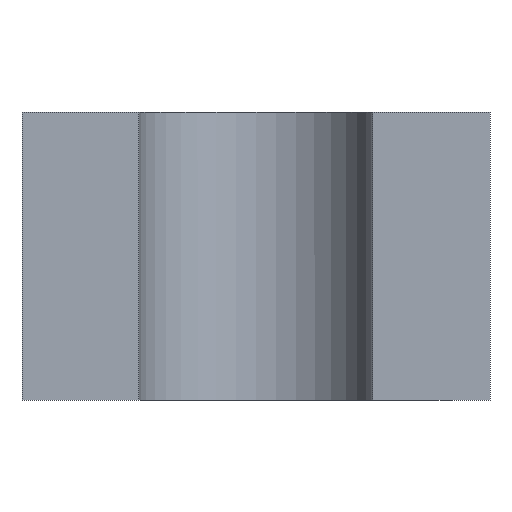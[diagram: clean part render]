
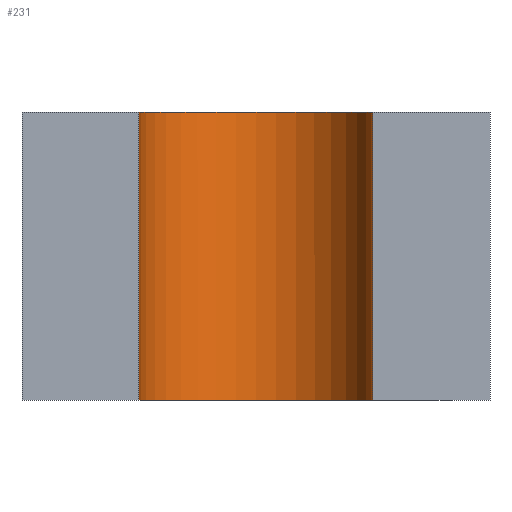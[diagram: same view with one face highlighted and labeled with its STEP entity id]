
A CAD part, front view. The second image highlights one B-rep face of the part: STEP entity #231.
In plain terms, the highlighted cylindrical face has radius 3.25 mm (diameter 6.5 mm), a partial arc.
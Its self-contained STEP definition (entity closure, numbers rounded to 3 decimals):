
#29=LINE('',#383,#53);
#30=LINE('',#389,#54);
#53=VECTOR('',#317,10.);
#54=VECTOR('',#324,10.);
#65=CYLINDRICAL_SURFACE('',#271,3.25);
#76=FACE_OUTER_BOUND('',#90,.T.);
#90=EDGE_LOOP('',(#180,#181,#182,#183));
#102=CIRCLE('',#272,3.25);
#103=CIRCLE('',#273,3.25);
#116=VERTEX_POINT('',#379);
#117=VERTEX_POINT('',#381);
#118=VERTEX_POINT('',#385);
#119=VERTEX_POINT('',#387);
#142=EDGE_CURVE('',#116,#117,#29,.T.);
#143=EDGE_CURVE('',#116,#118,#102,.T.);
#144=EDGE_CURVE('',#119,#117,#103,.T.);
#145=EDGE_CURVE('',#118,#119,#30,.T.);
#180=ORIENTED_EDGE('',*,*,#143,.F.);
#181=ORIENTED_EDGE('',*,*,#142,.T.);
#182=ORIENTED_EDGE('',*,*,#144,.F.);
#183=ORIENTED_EDGE('',*,*,#145,.F.);
#231=ADVANCED_FACE('',(#76),#65,.F.);
#271=AXIS2_PLACEMENT_3D('',#384,#318,#319);
#272=AXIS2_PLACEMENT_3D('',#386,#320,#321);
#273=AXIS2_PLACEMENT_3D('',#388,#322,#323);
#317=DIRECTION('',(0.,0.,1.));
#318=DIRECTION('center_axis',(0.,0.,1.));
#319=DIRECTION('ref_axis',(1.,0.,0.));
#320=DIRECTION('center_axis',(0.,0.,1.));
#321=DIRECTION('ref_axis',(1.,0.,0.));
#322=DIRECTION('center_axis',(0.,0.,-1.));
#323=DIRECTION('ref_axis',(1.,0.,0.));
#324=DIRECTION('',(0.,0.,1.));
#379=CARTESIAN_POINT('',(3.25,-5.75,0.));
#381=CARTESIAN_POINT('',(3.25,-5.75,8.));
#383=CARTESIAN_POINT('',(3.25,-5.75,0.));
#384=CARTESIAN_POINT('Origin',(0.,-5.75,0.));
#385=CARTESIAN_POINT('',(-3.25,-5.75,0.));
#386=CARTESIAN_POINT('Origin',(0.,-5.75,0.));
#387=CARTESIAN_POINT('',(-3.25,-5.75,8.));
#388=CARTESIAN_POINT('Origin',(0.,-5.75,8.));
#389=CARTESIAN_POINT('',(-3.25,-5.75,0.));
